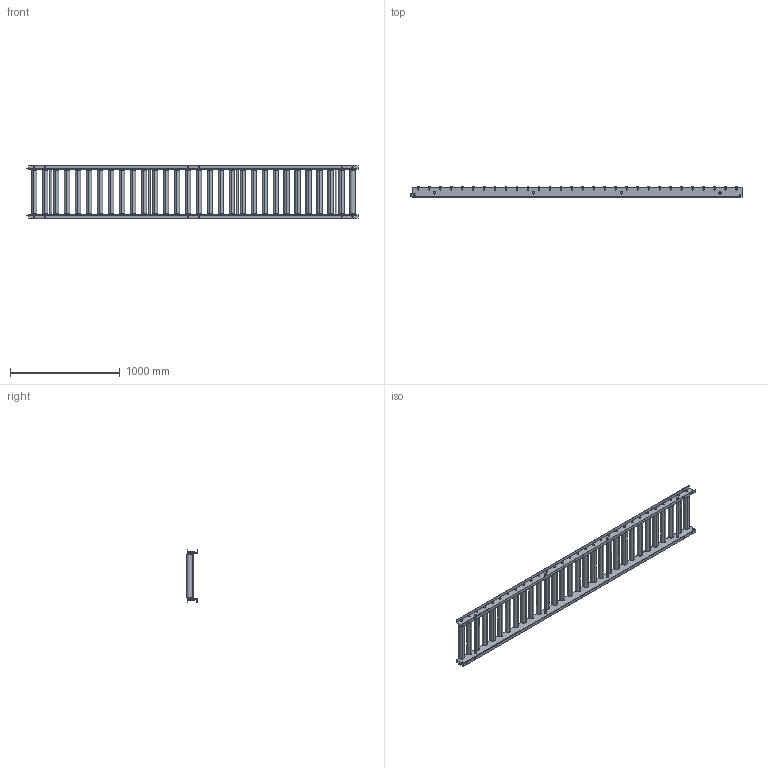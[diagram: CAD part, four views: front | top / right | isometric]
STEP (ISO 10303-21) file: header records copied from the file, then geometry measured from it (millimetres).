
FILE_DESCRIPTION (( 'STEP AP203' ), '1' );
FILE_NAME ('R-4814NB.step', '2024-02-20T08:16:15', ( '' ), ( '' ), 'SwSTEP 2.0', 'SolidWorks 2023', '' );
FILE_SCHEMA (( 'CONFIG_CONTROL_DESIGN' ));
Length unit declared in the file: millimetre
Products named in the file (1): R-4814NB
Bounding box: 3025 x 95.8 x 475 mm (x, y, z)
Volume: 23988438.9 mm3; surface area: 5225115.2 mm2
Topology: 84 solids, 84 shells, 1280 faces, 2932 edges, 1888 vertices
Faces by surface type: cylinder 622, plane 490, torus 120, cone 48
Entity records: 37571 total; most frequent: DIRECTION 7018, CARTESIAN_POINT 6773, ORIENTED_EDGE 5864, AXIS2_PLACEMENT_3D 2933, EDGE_CURVE 2932, VERTEX_POINT 1888, EDGE_LOOP 1652, CIRCLE 1652
